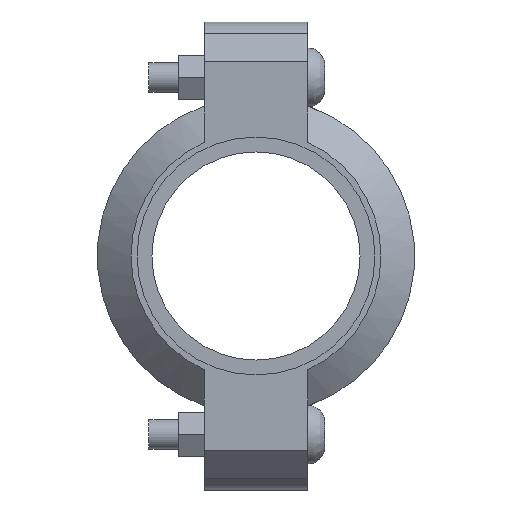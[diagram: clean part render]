
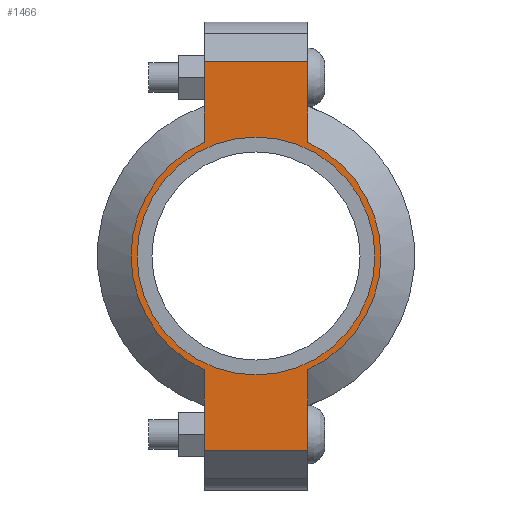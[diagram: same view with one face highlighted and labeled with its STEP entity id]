
A CAD part, left-side view. The second image highlights one B-rep face of the part: STEP entity #1466.
In plain terms, the highlighted planar face has unit normal (-1, 0, 0) as drawn and (0, 0, 1) by its records, which use the part's own axes.
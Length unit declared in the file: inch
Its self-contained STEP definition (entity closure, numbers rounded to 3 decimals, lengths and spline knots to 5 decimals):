
#128=LINE('',#2557,#221);
#141=LINE('',#2601,#234);
#146=LINE('',#2625,#239);
#153=LINE('',#2643,#246);
#160=LINE('',#2668,#253);
#161=LINE('',#2671,#254);
#221=VECTOR('',#2049,0.3937);
#234=VECTOR('',#2078,0.3937);
#239=VECTOR('',#2089,0.3937);
#246=VECTOR('',#2106,0.3937);
#253=VECTOR('',#2127,0.3937);
#254=VECTOR('',#2132,0.3937);
#302=FACE_BOUND('',#462,.T.);
#367=FACE_OUTER_BOUND('',#461,.T.);
#461=EDGE_LOOP('',(#1215,#1216,#1217,#1218,#1219,#1220,#1221,#1222));
#462=EDGE_LOOP('',(#1223));
#558=CIRCLE('',#1729,1.575);
#559=CIRCLE('',#1730,1.575);
#560=CIRCLE('',#1731,1.5);
#661=VERTEX_POINT('',#2552);
#662=VERTEX_POINT('',#2556);
#678=VERTEX_POINT('',#2598);
#679=VERTEX_POINT('',#2600);
#685=VERTEX_POINT('',#2620);
#686=VERTEX_POINT('',#2624);
#691=VERTEX_POINT('',#2640);
#692=VERTEX_POINT('',#2642);
#698=VERTEX_POINT('',#2673);
#828=EDGE_CURVE('',#662,#661,#128,.T.);
#848=EDGE_CURVE('',#679,#678,#141,.T.);
#857=EDGE_CURVE('',#686,#685,#146,.T.);
#866=EDGE_CURVE('',#692,#691,#153,.T.);
#878=EDGE_CURVE('',#686,#678,#160,.T.);
#879=EDGE_CURVE('',#685,#692,#558,.T.);
#880=EDGE_CURVE('',#662,#691,#161,.T.);
#881=EDGE_CURVE('',#661,#679,#559,.T.);
#882=EDGE_CURVE('',#698,#698,#560,.T.);
#1215=ORIENTED_EDGE('',*,*,#878,.F.);
#1216=ORIENTED_EDGE('',*,*,#857,.T.);
#1217=ORIENTED_EDGE('',*,*,#879,.T.);
#1218=ORIENTED_EDGE('',*,*,#866,.T.);
#1219=ORIENTED_EDGE('',*,*,#880,.F.);
#1220=ORIENTED_EDGE('',*,*,#828,.T.);
#1221=ORIENTED_EDGE('',*,*,#881,.T.);
#1222=ORIENTED_EDGE('',*,*,#848,.T.);
#1223=ORIENTED_EDGE('',*,*,#882,.T.);
#1319=PLANE('',#1728);
#1466=ADVANCED_FACE('',(#367,#302),#1319,.T.);
#1728=AXIS2_PLACEMENT_3D('',#2669,#2128,#2129);
#1729=AXIS2_PLACEMENT_3D('',#2670,#2130,#2131);
#1730=AXIS2_PLACEMENT_3D('',#2672,#2133,#2134);
#1731=AXIS2_PLACEMENT_3D('',#2674,#2135,#2136);
#2049=DIRECTION('',(1.,0.,0.));
#2078=DIRECTION('',(1.,0.,0.));
#2089=DIRECTION('',(-1.,0.,0.));
#2106=DIRECTION('',(-1.,0.,0.));
#2127=DIRECTION('',(0.,-1.,0.));
#2128=DIRECTION('center_axis',(0.,0.,1.));
#2129=DIRECTION('ref_axis',(-1.,0.,0.));
#2130=DIRECTION('center_axis',(0.,0.,1.));
#2131=DIRECTION('ref_axis',(1.,0.,0.));
#2132=DIRECTION('',(0.,1.,0.));
#2133=DIRECTION('center_axis',(0.,0.,1.));
#2134=DIRECTION('ref_axis',(1.,0.,0.));
#2135=DIRECTION('center_axis',(0.,0.,-1.));
#2136=DIRECTION('ref_axis',(1.,0.,0.));
#2552=CARTESIAN_POINT('',(-1.43462,-0.65,0.94));
#2556=CARTESIAN_POINT('',(-2.45,-0.65,0.94));
#2557=CARTESIAN_POINT('',(2.95,-0.65,0.94));
#2598=CARTESIAN_POINT('',(2.45,-0.65,0.94));
#2600=CARTESIAN_POINT('',(1.43462,-0.65,0.94));
#2601=CARTESIAN_POINT('',(2.95,-0.65,0.94));
#2620=CARTESIAN_POINT('',(1.43462,0.65,0.94));
#2624=CARTESIAN_POINT('',(2.45,0.65,0.94));
#2625=CARTESIAN_POINT('',(-2.95,0.65,0.94));
#2640=CARTESIAN_POINT('',(-2.45,0.65,0.94));
#2642=CARTESIAN_POINT('',(-1.43462,0.65,0.94));
#2643=CARTESIAN_POINT('',(-2.95,0.65,0.94));
#2668=CARTESIAN_POINT('',(2.45,-0.325,0.94));
#2669=CARTESIAN_POINT('Origin',(0.,0.,
0.94));
#2670=CARTESIAN_POINT('Origin',(0.,0.,0.94));
#2671=CARTESIAN_POINT('',(-2.45,0.325,0.94));
#2672=CARTESIAN_POINT('Origin',(0.,0.,0.94));
#2673=CARTESIAN_POINT('',(-1.5,0.,0.94));
#2674=CARTESIAN_POINT('Origin',(0.,0.,0.94));
